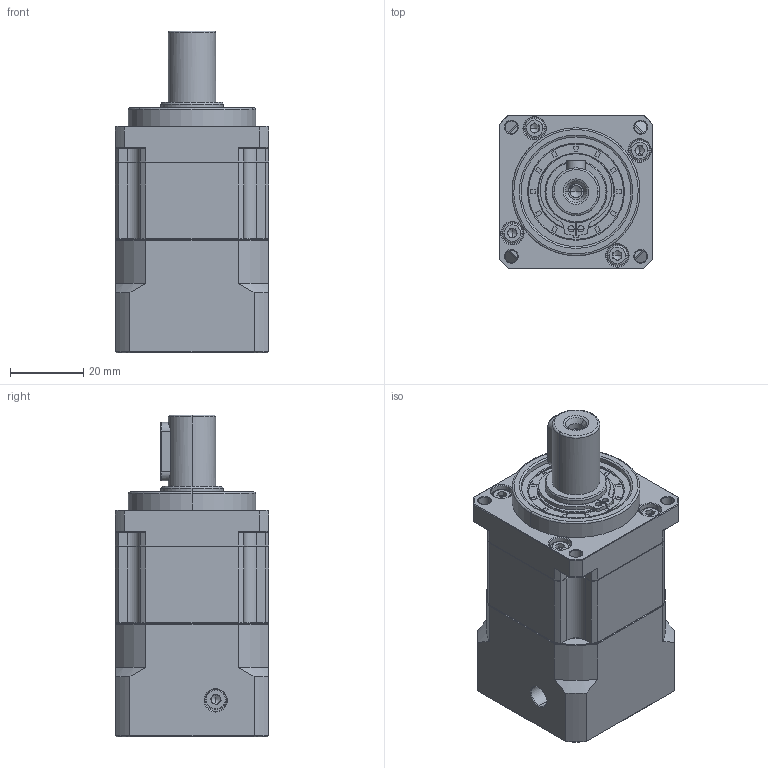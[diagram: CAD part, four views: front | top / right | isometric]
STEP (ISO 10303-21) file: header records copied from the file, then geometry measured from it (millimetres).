
FILE_DESCRIPTION (( 'STEP AP214' ), '1' );
FILE_NAME ('ZB042-D13-L1-P2-8-30-46-M4.STEP', '2023-08-15T11:58:00', ( '' ), ( '' ), 'SwSTEP 2.0', 'SolidWorks 2016', '' );
FILE_SCHEMA (( 'AUTOMOTIVE_DESIGN' ));
Length unit declared in the file: millimetre
Products named in the file (1): ZB042-D13-L1-P2-8-30-46-M4
Bounding box: 42 x 42 x 88 mm (x, y, z)
Volume: 98826.7 mm3; surface area: 26821 mm2
Topology: 6 solids, 6 shells, 2247 faces, 6024 edges, 3872 vertices
Faces by surface type: plane 1098, cylinder 417, bspline 409, cone 303, torus 20
Entity records: 121489 total; most frequent: CARTESIAN_POINT 44087, ORIENTED_EDGE 11988, DIRECTION 9268, EDGE_CURVE 5994, VERTEX_POINT 3872, VECTOR 3814, LINE 3814, AXIS2_PLACEMENT_3D 2727
